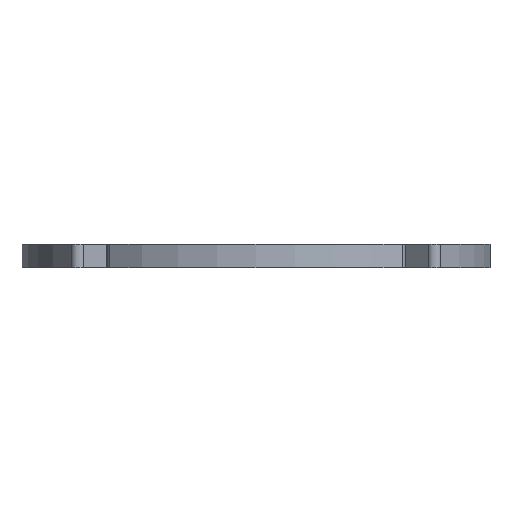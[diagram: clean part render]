
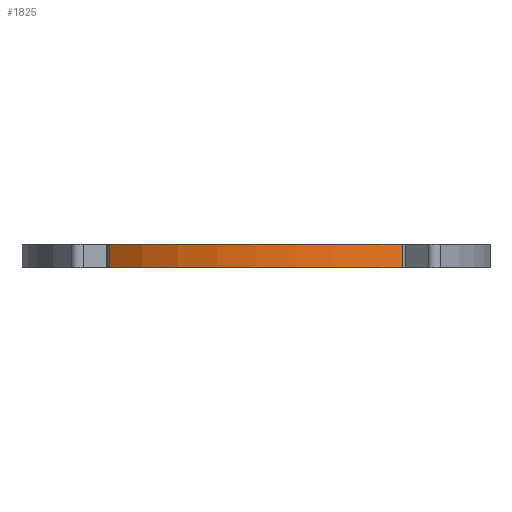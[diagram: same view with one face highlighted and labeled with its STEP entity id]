
A CAD part, left-side view. The second image highlights one B-rep face of the part: STEP entity #1825.
In plain terms, the highlighted cylindrical face has radius 15 mm (diameter 30 mm), a partial arc.
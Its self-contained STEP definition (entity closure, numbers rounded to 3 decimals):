
#1765=CARTESIAN_POINT('',(-11.745,-9.331,1.5));
#1766=VERTEX_POINT('',#1765);
#1774=CARTESIAN_POINT('',(-11.745,-9.331,0.0));
#1775=VERTEX_POINT('',#1774);
#1776=CARTESIAN_POINT('',(-11.745,-9.331,0.0));
#1777=DIRECTION('',(0.0,0.0,1.0));
#1778=VECTOR('',#1777,1.5);
#1779=LINE('',#1776,#1778);
#1780=EDGE_CURVE('',#1775,#1766,#1779,.T.);
#1793=CARTESIAN_POINT('',(0.0,0.0,0.0));
#1794=DIRECTION('',(0.0,0.0,1.0));
#1795=DIRECTION('',(0.783,-0.622,0.0));
#1796=AXIS2_PLACEMENT_3D('',#1793,#1794,#1795);
#1797=CYLINDRICAL_SURFACE('',#1796,15.);
#1798=CARTESIAN_POINT('',(-11.745,9.331,1.5));
#1799=VERTEX_POINT('',#1798);
#1800=CARTESIAN_POINT('',(0.0,0.0,1.5));
#1801=DIRECTION('',(0.0,0.0,-1.0));
#1802=DIRECTION('',(0.783,-0.622,0.0));
#1803=AXIS2_PLACEMENT_3D('',#1800,#1801,#1802);
#1804=CIRCLE('',#1803,15.);
#1805=EDGE_CURVE('',#1766,#1799,#1804,.T.);
#1806=ORIENTED_EDGE('',*,*,#1805,.T.);
#1807=CARTESIAN_POINT('',(-11.745,9.331,0.0));
#1808=VERTEX_POINT('',#1807);
#1809=CARTESIAN_POINT('',(-11.745,9.331,0.0));
#1810=DIRECTION('',(0.0,0.0,1.0));
#1811=VECTOR('',#1810,1.5);
#1812=LINE('',#1809,#1811);
#1813=EDGE_CURVE('',#1808,#1799,#1812,.T.);
#1814=ORIENTED_EDGE('',*,*,#1813,.F.);
#1815=CARTESIAN_POINT('',(0.0,0.0,0.0));
#1816=DIRECTION('',(0.0,0.0,-1.0));
#1817=DIRECTION('',(0.783,-0.622,0.0));
#1818=AXIS2_PLACEMENT_3D('',#1815,#1816,#1817);
#1819=CIRCLE('',#1818,15.);
#1820=EDGE_CURVE('',#1775,#1808,#1819,.T.);
#1821=ORIENTED_EDGE('',*,*,#1820,.F.);
#1822=ORIENTED_EDGE('',*,*,#1780,.T.);
#1823=EDGE_LOOP('',(#1806,#1814,#1821,#1822));
#1824=FACE_OUTER_BOUND('',#1823,.T.);
#1825=ADVANCED_FACE('',(#1824),#1797,.T.);
